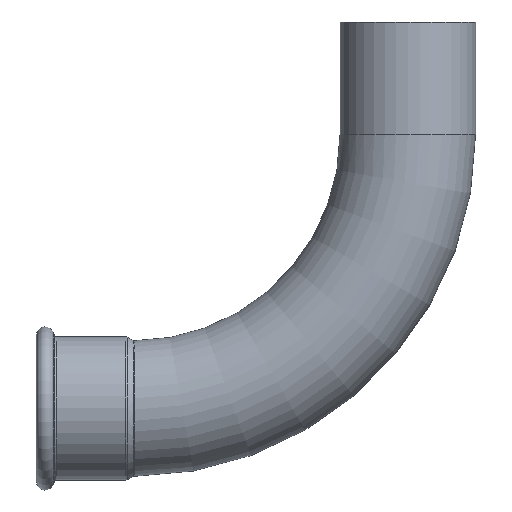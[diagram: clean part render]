
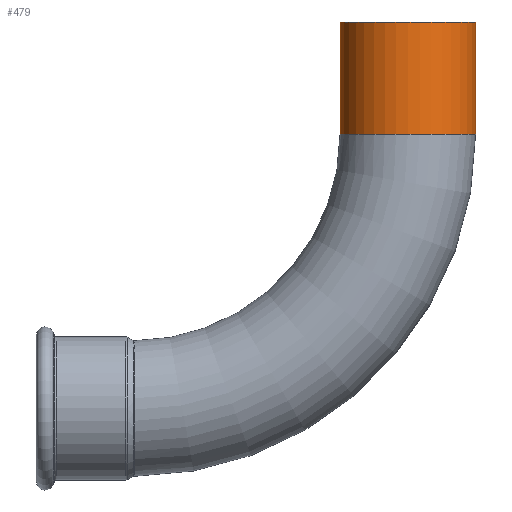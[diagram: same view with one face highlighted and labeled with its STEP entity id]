
A CAD part, top view. The second image highlights one B-rep face of the part: STEP entity #479.
In plain terms, the highlighted cylindrical face has radius 27.2 mm (diameter 54.4 mm), a partial arc.
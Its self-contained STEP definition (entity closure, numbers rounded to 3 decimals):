
#44 = CARTESIAN_POINT ( 'NONE',  ( 82.8, 45., 0. ) ) ;
#201 = ORIENTED_EDGE ( 'NONE', *, *, #3153, .F. ) ;
#204 = VERTEX_POINT ( 'NONE', #848 ) ;
#361 = LINE ( 'NONE', #3170, #2927 ) ;
#479 = ADVANCED_FACE ( 'NONE', ( #1389 ), #837, .T. ) ;
#577 = DIRECTION ( 'NONE',  ( 1., 0., 0. ) ) ;
#592 = EDGE_LOOP ( 'NONE', ( #796, #682, #2323, #201 ) ) ;
#673 = DIRECTION ( 'NONE',  ( 0., -1., 0. ) ) ;
#682 = ORIENTED_EDGE ( 'NONE', *, *, #1245, .T. ) ;
#692 = AXIS2_PLACEMENT_3D ( 'NONE', #2063, #2270, #2285 ) ;
#796 = ORIENTED_EDGE ( 'NONE', *, *, #2450, .F. ) ;
#837 = CYLINDRICAL_SURFACE ( 'NONE', #2783, 27.2 ) ;
#848 = CARTESIAN_POINT ( 'NONE',  ( 82.8, 0., 0. ) ) ;
#853 = AXIS2_PLACEMENT_3D ( 'NONE', #1625, #2649, #2615 ) ;
#983 = VERTEX_POINT ( 'NONE', #44 ) ;
#1087 = DIRECTION ( 'NONE',  ( 0., -1., 0. ) ) ;
#1215 = VECTOR ( 'NONE', #673, 1000. ) ;
#1245 = EDGE_CURVE ( 'NONE', #983, #204, #1762, .T. ) ;
#1254 = CARTESIAN_POINT ( 'NONE',  ( 82.8, 45., 0. ) ) ;
#1386 = CIRCLE ( 'NONE', #692, 27.2 ) ;
#1389 = FACE_OUTER_BOUND ( 'NONE', #592, .T. ) ;
#1625 = CARTESIAN_POINT ( 'NONE',  ( 110., 0., 0. ) ) ;
#1662 = CARTESIAN_POINT ( 'NONE',  ( 137.2, 0., 0. ) ) ;
#1677 = VERTEX_POINT ( 'NONE', #1761 ) ;
#1761 = CARTESIAN_POINT ( 'NONE',  ( 137.2, 45., 0. ) ) ;
#1762 = LINE ( 'NONE', #1254, #1215 ) ;
#1910 = CARTESIAN_POINT ( 'NONE',  ( 110., 45., 0. ) ) ;
#2063 = CARTESIAN_POINT ( 'NONE',  ( 110., 45., 0. ) ) ;
#2137 = VERTEX_POINT ( 'NONE', #1662 ) ;
#2270 = DIRECTION ( 'NONE',  ( 0., 1., 0. ) ) ;
#2285 = DIRECTION ( 'NONE',  ( -1., 0., 0. ) ) ;
#2323 = ORIENTED_EDGE ( 'NONE', *, *, #2602, .T. ) ;
#2450 = EDGE_CURVE ( 'NONE', #983, #1677, #1386, .T. ) ;
#2602 = EDGE_CURVE ( 'NONE', #204, #2137, #2861, .T. ) ;
#2615 = DIRECTION ( 'NONE',  ( -1., 0., 0. ) ) ;
#2649 = DIRECTION ( 'NONE',  ( 0., 1., 0. ) ) ;
#2674 = DIRECTION ( 'NONE',  ( 0., -1., 0. ) ) ;
#2783 = AXIS2_PLACEMENT_3D ( 'NONE', #1910, #1087, #577 ) ;
#2861 = CIRCLE ( 'NONE', #853, 27.2 ) ;
#2927 = VECTOR ( 'NONE', #2674, 1000. ) ;
#3153 = EDGE_CURVE ( 'NONE', #1677, #2137, #361, .T. ) ;
#3170 = CARTESIAN_POINT ( 'NONE',  ( 137.2, 45., 0. ) ) ;
